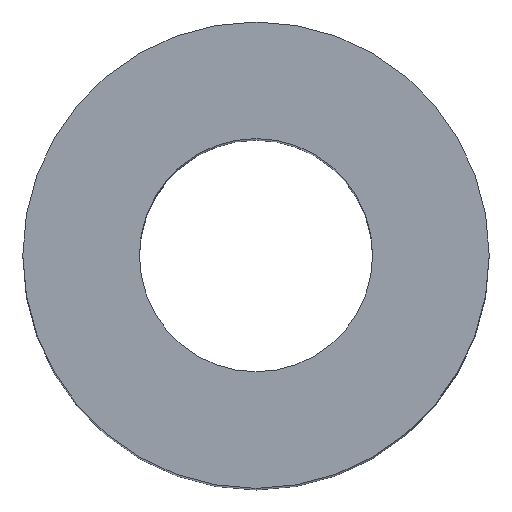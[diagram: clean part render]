
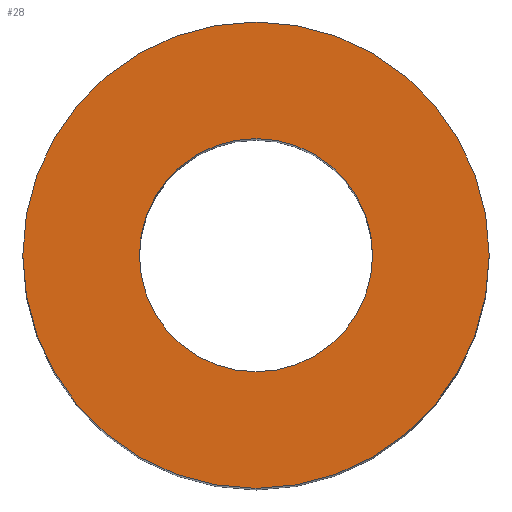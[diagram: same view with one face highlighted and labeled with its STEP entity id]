
A CAD part, top view. The second image highlights one B-rep face of the part: STEP entity #28.
In plain terms, the highlighted planar face has unit normal (0, 0, 1).
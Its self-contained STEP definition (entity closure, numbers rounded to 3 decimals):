
#28 = ADVANCED_FACE( '', ( #53, #54 ), #55, .F. );
#53 = FACE_BOUND( '', #76, .T. );
#54 = FACE_OUTER_BOUND( '', #77, .T. );
#55 = PLANE( '', #78 );
#76 = EDGE_LOOP( '', ( #93 ) );
#77 = EDGE_LOOP( '', ( #94 ) );
#78 = AXIS2_PLACEMENT_3D( '', #95, #96, #97 );
#93 = ORIENTED_EDGE( '', *, *, #117, .T. );
#94 = ORIENTED_EDGE( '', *, *, #118, .F. );
#95 = CARTESIAN_POINT( '', ( 0., 0., 40. ) );
#96 = DIRECTION( '', ( 0., 0., -1. ) );
#97 = DIRECTION( '', ( -1., 0., 0. ) );
#117 = EDGE_CURVE( '', #125, #125, #126, .T. );
#118 = EDGE_CURVE( '', #127, #127, #128, .T. );
#125 = VERTEX_POINT( '', #137 );
#126 = CIRCLE( '', #138, 5. );
#127 = VERTEX_POINT( '', #139 );
#128 = CIRCLE( '', #140, 10. );
#137 = CARTESIAN_POINT( '', ( 5., 0., 40. ) );
#138 = AXIS2_PLACEMENT_3D( '', #148, #149, #150 );
#139 = CARTESIAN_POINT( '', ( 10., 0., 40. ) );
#140 = AXIS2_PLACEMENT_3D( '', #151, #152, #153 );
#148 = CARTESIAN_POINT( '', ( 0., 0., 40. ) );
#149 = DIRECTION( '', ( 0., 0., -1. ) );
#150 = DIRECTION( '', ( 1., 0., 0. ) );
#151 = CARTESIAN_POINT( '', ( 0., 0., 40. ) );
#152 = DIRECTION( '', ( 0., 0., -1. ) );
#153 = DIRECTION( '', ( 1., 0., 0. ) );
